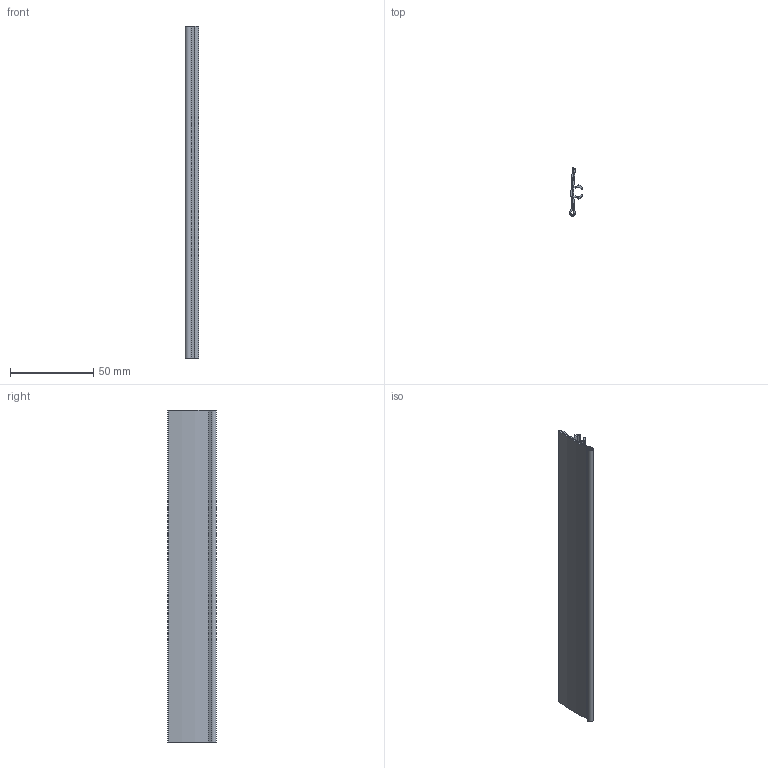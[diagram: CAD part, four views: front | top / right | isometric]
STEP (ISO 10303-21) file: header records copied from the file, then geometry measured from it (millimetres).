
FILE_DESCRIPTION(/* description */ ('STEP AP214'),/* implementation_level */ '2;1');
FILE_NAME(/* name */ '093LC23N08S01.2000',/* time_stamp */ '2025-04-03T16:10:34+02:00',/* author */ ('License CC BY-ND 4.0'),/* organization */ ('CADENAS'),/* preprocessor_version */ 'ST-DEVELOPER v19.3',/* originating_system */ 'PARTsolutions',/* authorisation */ ' ');
FILE_SCHEMA (('AUTOMOTIVE_DESIGN {1 0 10303 214 3 1 1}'));
Length unit declared in the file: millimetre
Products named in the file (1): 093LC23N08S01.2000
Bounding box: 7.98 x 29 x 200 mm (x, y, z)
Volume: 11380.1 mm3; surface area: 28610.7 mm2
Topology: 1 solids, 1 shells, 30 faces, 84 edges, 56 vertices
Faces by surface type: cylinder 16, plane 14
Entity records: 1010 total; most frequent: DIRECTION 178, CARTESIAN_POINT 171, ORIENTED_EDGE 168, EDGE_CURVE 84, AXIS2_PLACEMENT_3D 63, VERTEX_POINT 56, LINE 52, VECTOR 52
